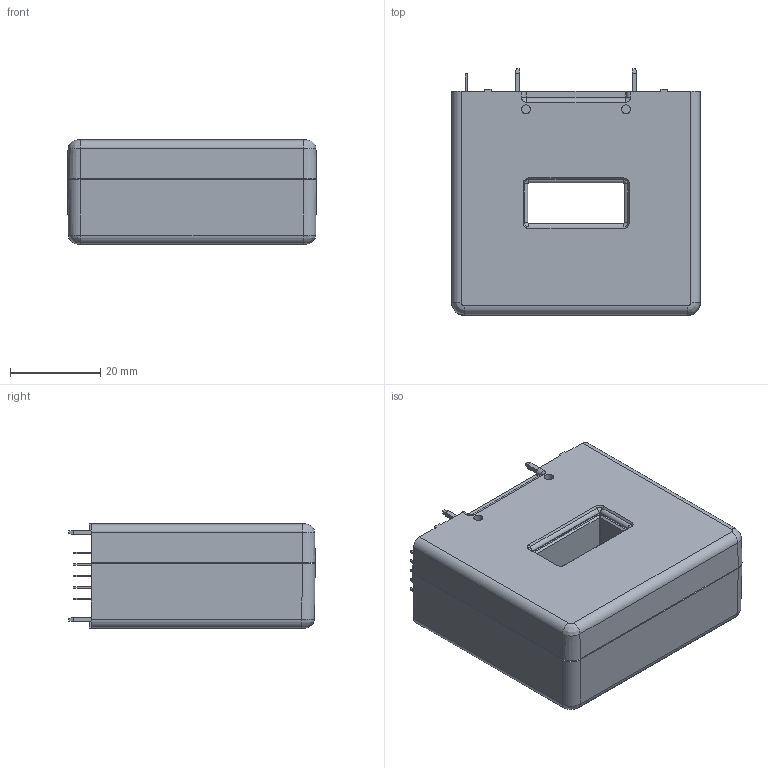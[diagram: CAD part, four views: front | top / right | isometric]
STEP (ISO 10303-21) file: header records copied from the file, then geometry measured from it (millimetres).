
FILE_DESCRIPTION(/* description */ (''),/* implementation_level */ '2;1');
FILE_NAME(/* name */ 'STB-300LA-M 20210813.stp',/* time_stamp */ '2021-08-13T16:16:07+08:00',/* author */ (''),/* organization */ (''),/* preprocessor_version */ 'ST-DEVELOPER v15',/* originating_system */ 'SIEMENS PLM Software NX 8.5',/* authorisation */ '');
FILE_SCHEMA (('AUTOMOTIVE_DESIGN { 1 0 10303 214 3 1 1 1 }'));
Length unit declared in the file: millimetre
Products named in the file (1): LeiX16C808A6m5u1
Bounding box: 55.05 x 54.5 x 23 mm (x, y, z)
Volume: 57122.6 mm3; surface area: 11674.7 mm2
Topology: 1 solids, 5 shells, 482 faces, 1233 edges, 788 vertices
Faces by surface type: plane 341, cylinder 72, bspline 39, cone 14, torus 12, sphere 4
Full cylindrical faces by diameter (mm): 2 x4
Entity records: 16243 total; most frequent: CARTESIAN_POINT 4166, ORIENTED_EDGE 2446, DIRECTION 2211, EDGE_CURVE 1223, LINE 945, VECTOR 945, VERTEX_POINT 786, AXIS2_PLACEMENT_3D 633
